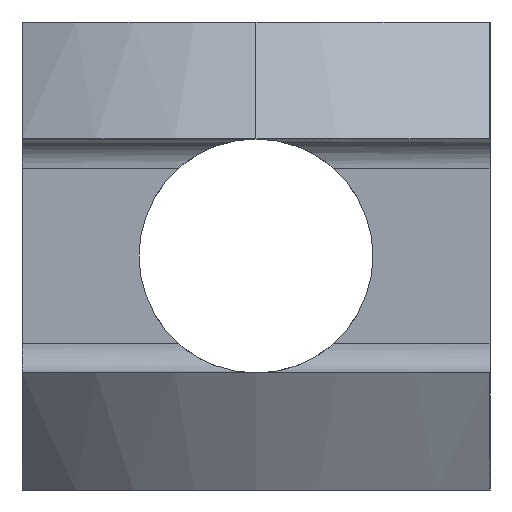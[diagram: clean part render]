
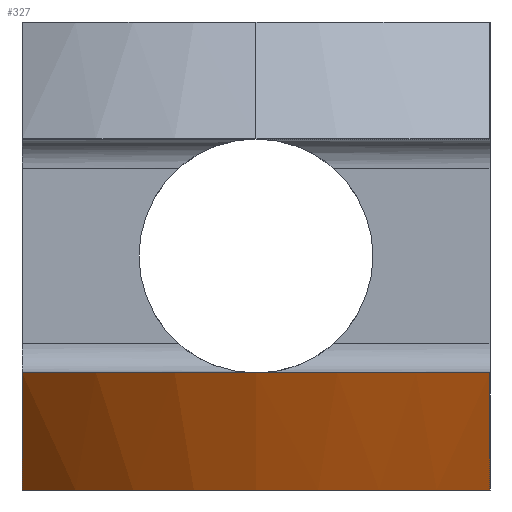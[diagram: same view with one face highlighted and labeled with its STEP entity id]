
A CAD part, left-side view. The second image highlights one B-rep face of the part: STEP entity #327.
In plain terms, the highlighted conical face has half-angle 30 degrees and reference radius 16 mm.
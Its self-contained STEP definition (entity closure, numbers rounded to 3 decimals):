
#153 = EDGE_CURVE ( 'NONE', #154, #1280, #665, .T. ) ;
#154 = VERTEX_POINT ( 'NONE', #714 ) ;
#160 = EDGE_CURVE ( 'NONE', #154, #214, #708, .T. ) ;
#213 = VERTEX_POINT ( 'NONE', #826 ) ;
#214 = VERTEX_POINT ( 'NONE', #825 ) ;
#218 = EDGE_CURVE ( 'NONE', #214, #213, #822, .T. ) ;
#323 = EDGE_LOOP ( 'NONE', ( #339, #344, #345, #343 ) ) ;
#327 = ADVANCED_FACE ( 'NONE', ( #1044 ), #1040, .T. ) ;
#339 = ORIENTED_EDGE ( 'NONE', *, *, #218, .F. ) ;
#343 = ORIENTED_EDGE ( 'NONE', *, *, #1279, .F. ) ;
#344 = ORIENTED_EDGE ( 'NONE', *, *, #160, .F. ) ;
#345 = ORIENTED_EDGE ( 'NONE', *, *, #153, .T. ) ;
#662 = DIRECTION ( 'NONE',  ( 0., 0., 1. ) ) ;
#663 = CARTESIAN_POINT ( 'NONE',  ( -42., 0., -8. ) ) ;
#664 = AXIS2_PLACEMENT_3D ( 'NONE', #663, #662, #715 ) ;
#665 = CIRCLE ( 'NONE', #664, 13.691 ) ;
#703 = CARTESIAN_POINT ( 'NONE',  ( -55.856, 8., -4. ) ) ;
#704 = CARTESIAN_POINT ( 'NONE',  ( -54.959, 8., -5.345 ) ) ;
#705 = CARTESIAN_POINT ( 'NONE',  ( -54.048, 8., -6.681 ) ) ;
#706 = CARTESIAN_POINT ( 'NONE',  ( -53.11, 8., -8. ) ) ;
#708 = B_SPLINE_CURVE_WITH_KNOTS ( 'NONE', 3,
 ( #706, #705, #704, #703 ),
 .UNSPECIFIED., .F., .F.,
 ( 4, 4 ),
 ( 0.029, 0.034 ),
 .UNSPECIFIED. ) ;
#714 = CARTESIAN_POINT ( 'NONE',  ( -53.11, 8., -8. ) ) ;
#715 = DIRECTION ( 'NONE',  ( 1., 0., 0. ) ) ;
#818 = DIRECTION ( 'NONE',  ( 1., 0., 0. ) ) ;
#819 = DIRECTION ( 'NONE',  ( 0., 0., 1. ) ) ;
#820 = CARTESIAN_POINT ( 'NONE',  ( -42., 0., -4. ) ) ;
#821 = AXIS2_PLACEMENT_3D ( 'NONE', #820, #819, #818 ) ;
#822 = CIRCLE ( 'NONE', #821, 16. ) ;
#825 = CARTESIAN_POINT ( 'NONE',  ( -55.856, 8., -4. ) ) ;
#826 = CARTESIAN_POINT ( 'NONE',  ( -55.856, -8., -4. ) ) ;
#1035 = DIRECTION ( 'NONE',  ( 1., 0., 0. ) ) ;
#1036 = DIRECTION ( 'NONE',  ( 0., 0., 1. ) ) ;
#1037 = AXIS2_PLACEMENT_3D ( 'NONE', #1039, #1036, #1035 ) ;
#1039 = CARTESIAN_POINT ( 'NONE',  ( -42., 0., -4. ) ) ;
#1040 = CONICAL_SURFACE ( 'NONE', #1037, 16., 0.524 ) ;
#1044 = FACE_OUTER_BOUND ( 'NONE', #323, .T. ) ;
#1182 = CARTESIAN_POINT ( 'NONE',  ( -53.11, -8., -8. ) ) ;
#1183 = CARTESIAN_POINT ( 'NONE',  ( -54.048, -8., -6.682 ) ) ;
#1184 = CARTESIAN_POINT ( 'NONE',  ( -54.959, -8., -5.345 ) ) ;
#1185 = CARTESIAN_POINT ( 'NONE',  ( -55.856, -8., -4. ) ) ;
#1186 = CARTESIAN_POINT ( 'NONE',  ( -53.11, -8., -8. ) ) ;
#1187 = B_SPLINE_CURVE_WITH_KNOTS ( 'NONE', 3,
 ( #1185, #1184, #1183, #1182 ),
 .UNSPECIFIED., .F., .F.,
 ( 4, 4 ),
 ( 0.012, 0.017 ),
 .UNSPECIFIED. ) ;
#1279 = EDGE_CURVE ( 'NONE', #213, #1280, #1187, .T. ) ;
#1280 = VERTEX_POINT ( 'NONE', #1186 ) ;
